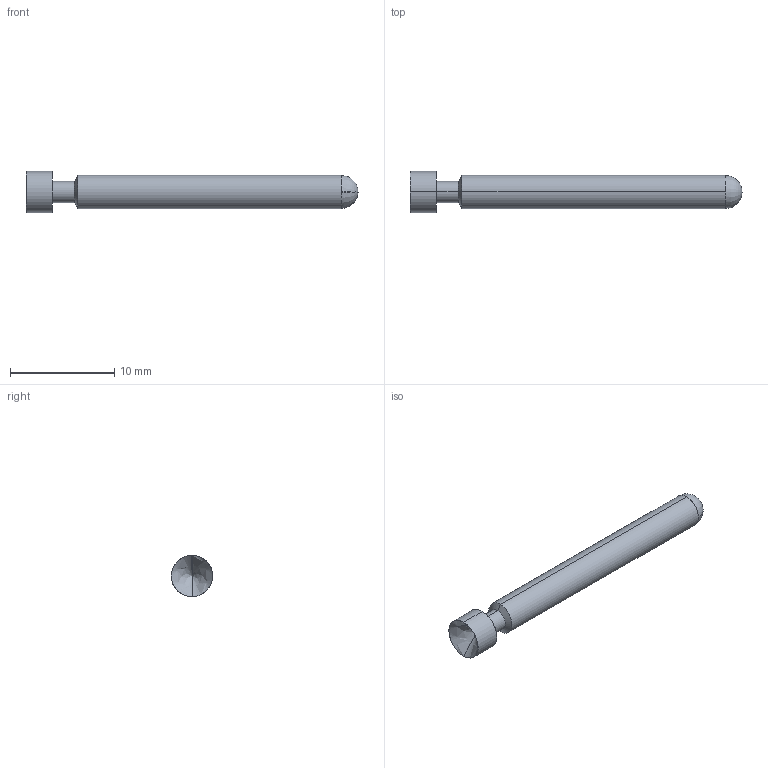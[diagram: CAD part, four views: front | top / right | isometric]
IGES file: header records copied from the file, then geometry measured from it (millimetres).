
Start section: SolidWorks IGES file using analytic representation for surfaces
Global section: file name: Z:\probe solid model mockups\Solidworks models\IGES Files\HCP-15 IGES files\HCP-15A RECD.IGS; native system: SolidWorks 2006 by SolidWorks Corporation; preprocessor: SolidWorks 2006 by SolidWorks Corporation; author: tsakatani; date: 071202.143738; units: inch
Bounding box: 31.83 x 3.96 x 3.96 mm (x, y, z)
Surface area: 344.8 mm2 (no closed solid volume)
Topology: 0 solids, 0 shells, 13 faces, 116 edges, 112 vertices
Faces by surface type: revolution 12, bspline 1
